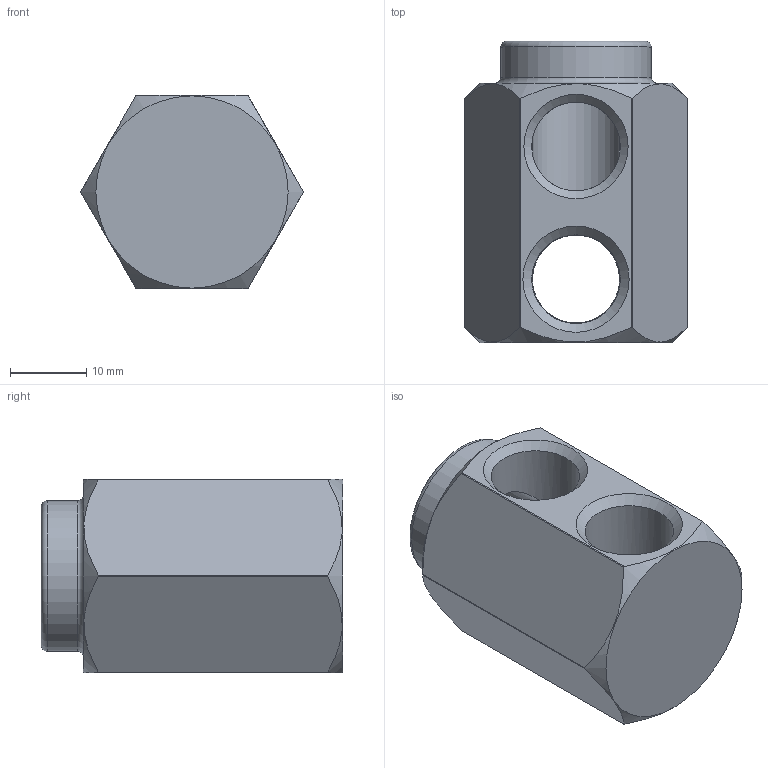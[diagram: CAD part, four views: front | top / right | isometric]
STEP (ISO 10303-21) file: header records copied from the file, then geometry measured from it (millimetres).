
FILE_DESCRIPTION(/* description */ (''),/* implementation_level */ '2;1');
FILE_NAME(/* name */ 'C:/Users/drich/Desktop/146H-4-HFT v1.step',/* time_stamp */ '2020-01-10T20:25:12-06:00',/* author */ (''),/* organization */ (''),/* preprocessor_version */ 'ST-DEVELOPER v18',/* originating_system */ 'Autodesk Translation Framework v8.12.0.6',/* authorisation */ '');
FILE_SCHEMA (('AUTOMOTIVE_DESIGN { 1 0 10303 214 3 1 1 }'));
Length unit declared in the file: inch
Products named in the file (2): 146H-4-HFT; 146H-4
Assembly tree (1 placements, depth 2):
  146H-4-HFT
    146H-4
Bounding box: 29.26 x 39.65 x 25.4 mm (x, y, z)
Volume: 14683.9 mm3; surface area: 5827 mm2
Topology: 1 solids, 1 shells, 34 faces, 96 edges, 64 vertices
Faces by surface type: cylinder 12, cone 11, plane 9, torus 2
Full cylindrical faces by diameter (mm): 6.909 x1, 11.668 x4, 19.812 x1
Entity records: 1239 total; most frequent: CARTESIAN_POINT 294, DIRECTION 195, ORIENTED_EDGE 192, EDGE_CURVE 96, AXIS2_PLACEMENT_3D 85, VERTEX_POINT 64, CIRCLE 46, EDGE_LOOP 40
